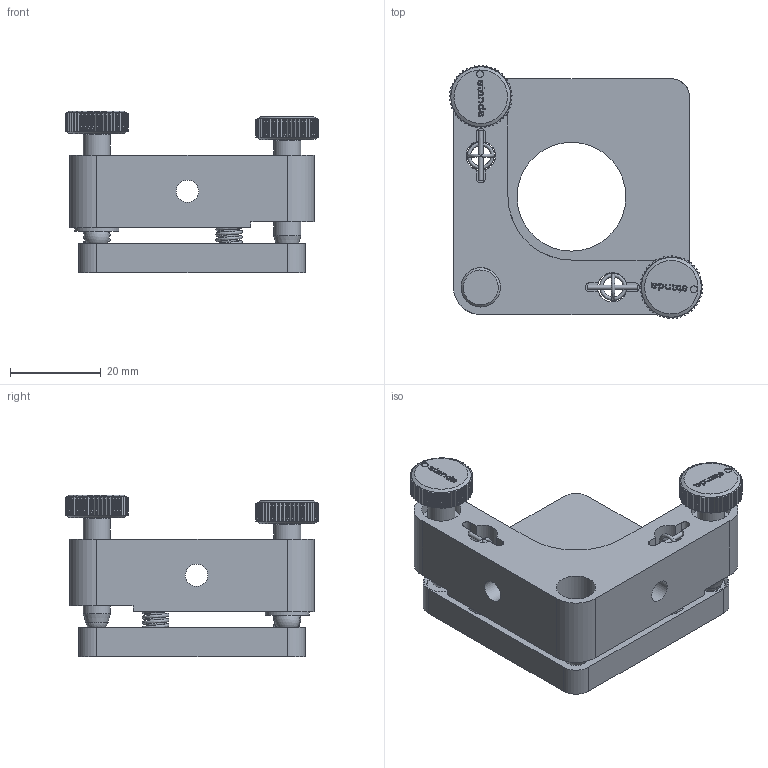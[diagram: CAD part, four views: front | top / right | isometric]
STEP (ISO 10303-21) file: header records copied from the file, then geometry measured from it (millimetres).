
FILE_DESCRIPTION(/* description */ (''),/* implementation_level */ '2;1');
FILE_NAME(/* name */ 'U:\KONSTRUKTORIAI\DOKUMENTACIJA\5\5MBM21-1\step\5MBM21-1-2 SB INT.stp',/* time_stamp */ '2018-10-03T14:39:40+03:00',/* author */ ('dsgn36'),/* organization */ (''),/* preprocessor_version */ 'ST-DEVELOPER v15.2',/* originating_system */ 'Autodesk Inventor 2014',/* authorisation */ '');
FILE_SCHEMA (('AUTOMOTIVE_DESIGN { 1 0 10303 214 3 1 1 }'));
Products named in the file (2): Part28; Assembly7
Bounding box: 55.79 x 55.78 x 35.71 mm (x, y, z)
Volume: 29396.4 mm3; surface area: 15957.1 mm2
Topology: 3 solids, 4 shells, 1191 faces, 3352 edges, 2227 vertices
Faces by surface type: plane 451, cylinder 442, bspline 262, cone 22, sphere 7, torus 7
Full cylindrical faces by diameter (mm): 0.7 x4, 1 x4, 1.5 x2, 2 x1, 2.5 x1, 3.242 x2, 4.2 x1, 4.917 x2, 6 x4, 6.5 x6, 7.4 x2, 8.7 x3, 9.8 x1, 10.3 x2, 10.5 x2, 13.2 x4, 24 x1
Entity records: 45070 total; most frequent: CARTESIAN_POINT 18428, ORIENTED_EDGE 6508, DIRECTION 4016, EDGE_CURVE 3246, VERTEX_POINT 2192, LINE 1392, VECTOR 1392, EDGE_LOOP 1344
